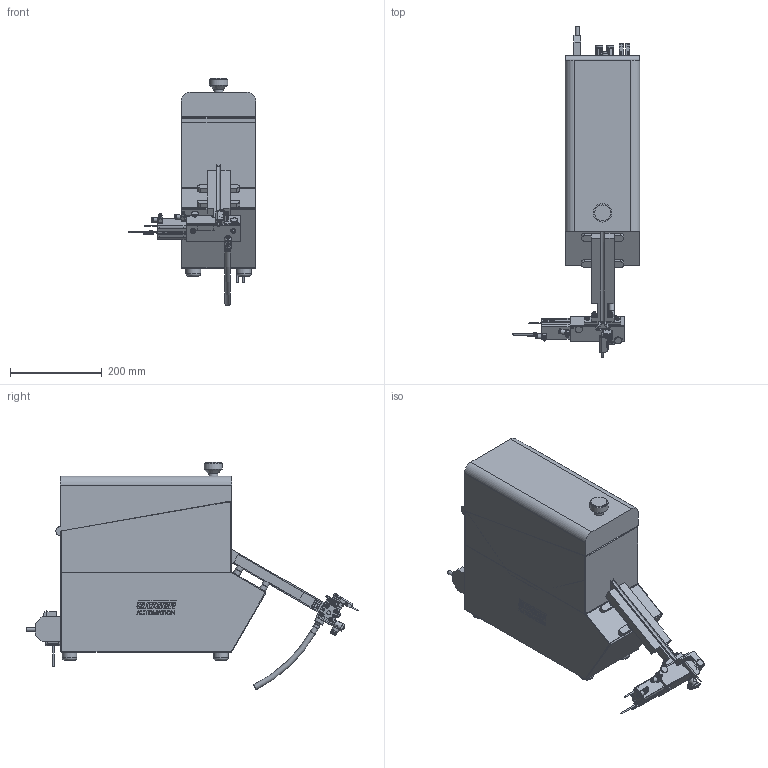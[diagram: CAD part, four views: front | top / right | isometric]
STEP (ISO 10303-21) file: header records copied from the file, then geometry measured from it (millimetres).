
FILE_DESCRIPTION(/* description */ ('© Copyright 2019 – Urheberrechtshinweis Diese CAD-Daten sind urheberrechtlich geschützt. Das Urheberrecht liegt, soweit nicht ausdrücklich anders gekennzeichnet, bei Stöger Automation GmbH. Bitte fragen Sie uns, falls Sie die CAD-Daten vervielfältigen oder','CAx-IF Rec.Pracs.---Representation and Presentation of Product Manufacturing Information (PMI)---4.0---2014-10-13'),/* implementation_level */ '2;1');
FILE_NAME(/* name */ 'H:\00_0 Arbeiten für Marketing\581421\3D_Step_file_SG2H_ELK.stp',/* time_stamp */ '2020-09-01T10:31:43+02:00',/* author */ ('Stöger Automation GmbH'),/* organization */ ('Stöger Automation GmbH'),/* preprocessor_version */ 'ST-DEVELOPER v17',/* originating_system */ 'Autodesk Inventor 2018',/* authorisation */ '');
FILE_SCHEMA (('AP242_MANAGED_MODEL_BASED_3D_ENGINEERING_MIM_LF { 1 0 10303 442 1 1 4 }'));
Products named in the file (1): 581421
Bounding box: 278.8 x 723.49 x 495.73 mm (x, y, z)
Volume: 2490379.6 mm3; surface area: 1434990.7 mm2
Topology: 7 solids, 23 shells, 2487 faces, 6700 edges, 4386 vertices
Faces by surface type: plane 1408, cylinder 782, cone 148, torus 64, bspline 61, sphere 24
Full cylindrical faces by diameter (mm): 1.8 x2, 2 x6, 2.459 x2, 2.5 x4, 2.8 x1, 2.9 x2, 3 x4, 3.05 x1, 3.1 x1, 3.242 x6, 3.387 x2, 3.5 x4, 3.6 x3, 3.8 x2, 3.99 x4, 4 x19, 4.019 x4, 4.134 x14, 4.2 x10, 4.3 x6, 4.4 x2, 4.5 x2, 4.864 x2, 5 x8, 5.5 x2, 5.7 x2, 6 x5, 6.1 x2, 6.917 x2, 7 x12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
Entity records: 85066 total; most frequent: CARTESIAN_POINT 18857, DIRECTION 13463, ORIENTED_EDGE 13362, EDGE_CURVE 6681, AXIS2_PLACEMENT_3D 4722, VERTEX_POINT 4387, LINE 4019, VECTOR 4019
